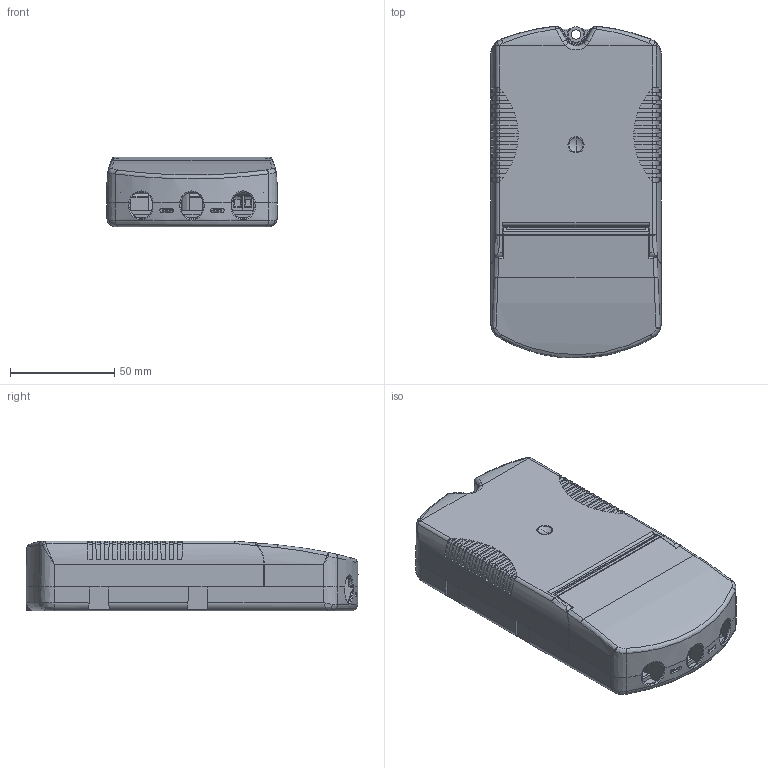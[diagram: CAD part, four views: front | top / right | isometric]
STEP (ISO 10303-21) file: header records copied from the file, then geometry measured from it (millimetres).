
FILE_DESCRIPTION((''),'2;1');
FILE_NAME('15014291Z_DATAMEC_160X82X34','2020-12-17T10:40:23',('elon.guo'),(''),'CREO PARAMETRIC BY PTC INC, 2019164','CREO PARAMETRIC BY PTC INC, 2019164','');
FILE_SCHEMA(('CONFIG_CONTROL_DESIGN'));
Length unit declared in the file: millimetre
Products named in the file (1): 15014291Z_DATAMEC_160X82X34
Bounding box: 81.99 x 159.43 x 33.5 mm (x, y, z)
Volume: 83066.4 mm3; surface area: 113905.4 mm2
Topology: 4 solids, 4 shells, 2779 faces, 7836 edges, 4957 vertices
Faces by surface type: plane 1465, cylinder 800, torus 176, cone 129, bspline 117, sphere 92
Entity records: 97696 total; most frequent: CARTESIAN_POINT 28075, ORIENTED_EDGE 15516, DIRECTION 13336, EDGE_CURVE 7758, VERTEX_POINT 4957, VECTOR 4760, LINE 4760, AXIS2_PLACEMENT_3D 4288
